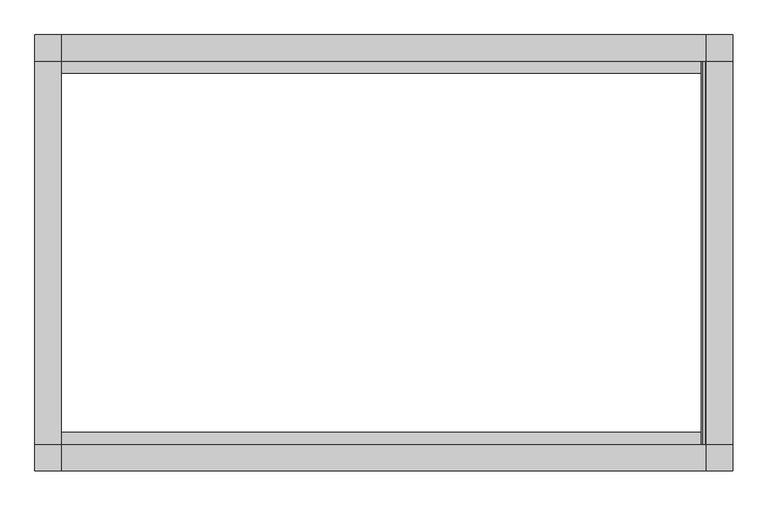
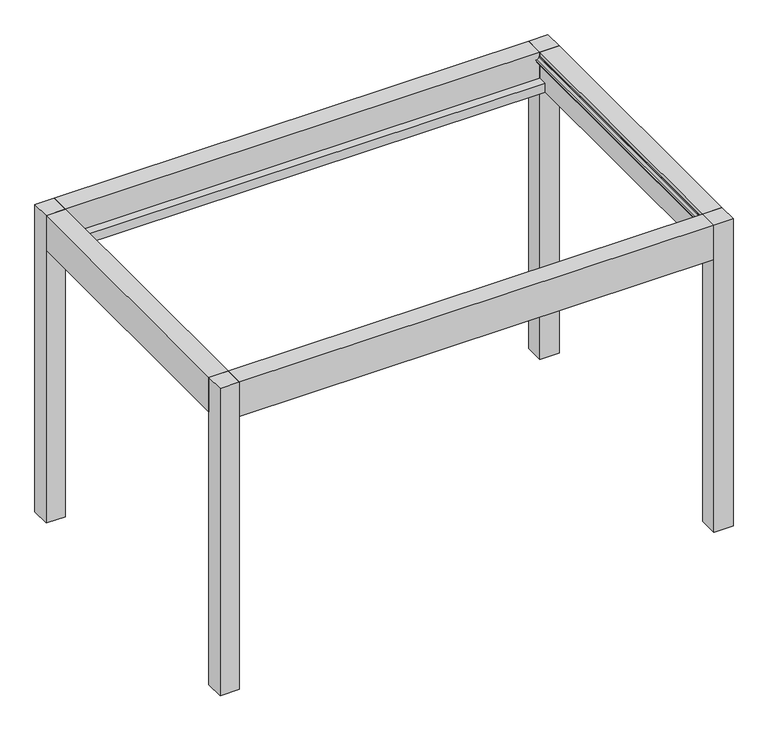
"""IFC4 building model written with IfcOpenShell, lengths in millimetres: proxy geometry, Renson_Amani_Patio_Cover : Renson_Amani_Patio_Cover."""

from ifc_helpers import new_model, si_unit, frame, origin, origin_with_axes, place, context, project, spatial, polyline, outline, extrude, source, transform, mapped, element, save


def generic_models_869bd144(model_context):
    return source(origin(), model_context, "Body", "SweptSolid", [
        extrude(outline(polyline([(2000.0, -1100.0), (2000.0, -1250.0), (1850.0, -1250.0), (1850.0, -1100.0), (2000.0, -1100.0)])), origin_with_axes(), (0.0, 0.0, 1.0), 2535.0),
        extrude(outline(polyline([(2000.0, 1250.0), (2000.0, 1100.0), (1850.0, 1100.0), (1850.0, 1250.0), (2000.0, 1250.0)])), origin_with_axes(), (0.0, 0.0, 1.0), 2535.0),
        extrude(outline(polyline([(-1850.0, 1100.0), (-2000.0, 1100.0), (-2000.0, 1250.0), (-1850.0, 1250.0), (-1850.0, 1100.0)])), origin_with_axes(), (0.0, 0.0, 1.0), 2535.0),
        extrude(outline(polyline([(-1850.0, -1100.0), (-1850.0, -1250.0), (-2000.0, -1250.0), (-2000.0, -1100.0), (-1850.0, -1100.0)])), origin_with_axes(), (0.0, 0.0, 1.0), 2535.0),
        extrude(outline(polyline([(-1850.0, -1100.0), (-2000.0, -1100.0), (-2000.0, 1100.0), (-1850.0, 1100.0), (-1850.0, -1100.0)])), frame((0.0, 0.0, 2250.0), z_axis=(0.0, 0.0, 1.0), x_axis=(1.0, 0.0, 0.0)), (0.0, 0.0, 1.0), 285.0),
        extrude(outline(polyline([(2535.0, 2000.0), (2535.0, 1850.0), (2504.6904658, 1850.0), (2504.2449277, 1845.0), (2496.400763, 1845.0), (2480.6555802, 1829.2544156), (2480.6555802, 1819.9090324), (2466.6559373, 1823.6603211), (2466.6559373, 1850.0), (2250.0, 1850.0), (2250.0, 2000.0), (2535.0, 2000.0)])), frame((0.0, -1100.0, 0.0), z_axis=(0.0, 1.0, 0.0), x_axis=(0.0, 0.0, 1.0)), (0.0, 0.0, 1.0), 2200.0),
        extrude(outline(polyline([(-1100.0, 2535.0), (-1100.0, 2322.0), (-1030.0000001, 2322.0), (-1030.0000001, 2250.0), (-1250.0, 2250.0), (-1250.0, 2535.0), (-1100.0, 2535.0)])), frame((-1850.0, 0.0, 0.0), z_axis=(1.0, 0.0, 0.0), x_axis=(0.0, 1.0, 0.0)), (0.0, 0.0, 1.0), 3700.0),
        extrude(outline(polyline([(1250.0, 2250.0), (1030.0000001, 2250.0), (1030.0000001, 2322.0), (1100.0, 2322.0), (1100.0, 2535.0), (1250.0, 2535.0), (1250.0, 2250.0)])), frame((-1850.0, 0.0, 0.0), z_axis=(1.0, 0.0, 0.0), x_axis=(0.0, 1.0, 0.0)), (0.0, 0.0, 1.0), 3700.0),
    ])


if __name__ == "__main__":
    model = new_model("IFC4")
    model_context = context("Model", 3, world=origin())
    ifc_project = project(units=[si_unit("LENGTHUNIT", "METRE", prefix="MILLI")], contexts=[model_context])
    site = spatial("IfcSite", under=ifc_project)
    building = spatial("IfcBuilding", under=site)
    placement = place(None, origin())
    generic_models_shape = generic_models_869bd144(model_context)
    element("IfcBuildingElementProxy", 1, Name="Renson_Amani_Patio_Cover : Renson_Amani_Patio_Cover", ObjectType="Renson_Amani_Patio_Cover : Renson_Amani_Patio_Cover", at=placement, inside=building, context=model_context, shape_type="MappedRepresentation", body=[
        mapped(generic_models_shape, transform((0.0, 0.0, 0.0), x_axis=(1.0, 0.0, 0.0), y_axis=(0.0, 1.0, 0.0), z_axis=(0.0, 0.0, 1.0))),
    ])
    save(model, "model.ifc")
